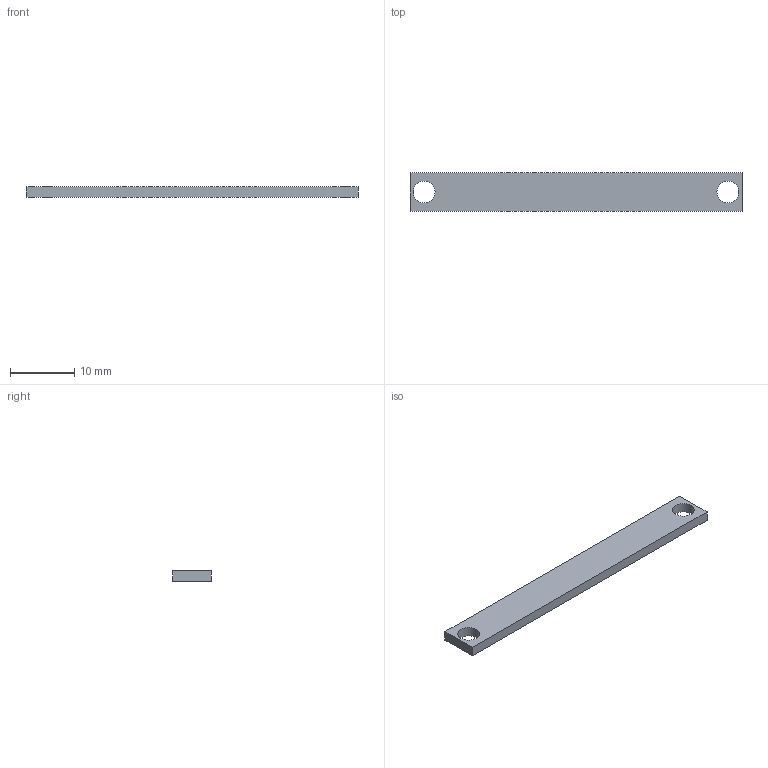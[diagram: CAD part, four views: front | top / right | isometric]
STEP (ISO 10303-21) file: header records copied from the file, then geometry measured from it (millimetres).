
FILE_DESCRIPTION(('FreeCAD Model'),'2;1');
FILE_NAME('Open CASCADE Shape Model','2026-11-20T08:25:38',('FreeCAD'),( 'FreeCAD'),'Open CASCADE STEP processor 7.8','FreeCAD','Unknown');
FILE_SCHEMA(('AUTOMOTIVE_DESIGN { 1 0 10303 214 1 1 1 1 }'));
Length unit declared in the file: millimetre
Products named in the file (1): Open CASCADE STEP translator 7.8 57
Bounding box: 51.6 x 6 x 1.6 mm (x, y, z)
Volume: 466.3 mm3; surface area: 801.4 mm2
Topology: 1 solids, 1 shells, 8 faces, 18 edges, 12 vertices
Faces by surface type: plane 6, cylinder 2
Full cylindrical faces by diameter (mm): 3.4 x2
Entity records: 244 total; most frequent: DIRECTION 40, CARTESIAN_POINT 39, ORIENTED_EDGE 36, EDGE_CURVE 18, LINE 14, VECTOR 14, AXIS2_PLACEMENT_3D 13, FACE_BOUND 12
